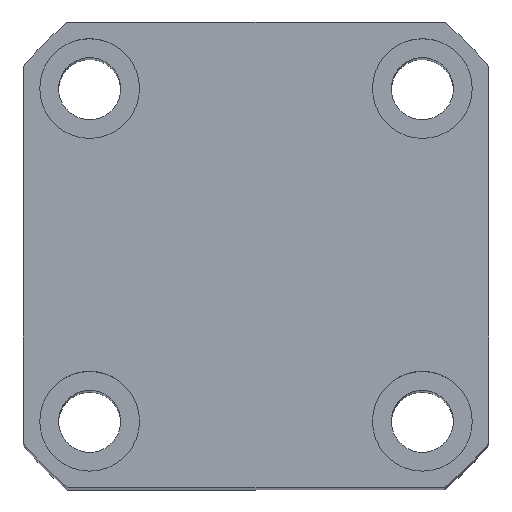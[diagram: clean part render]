
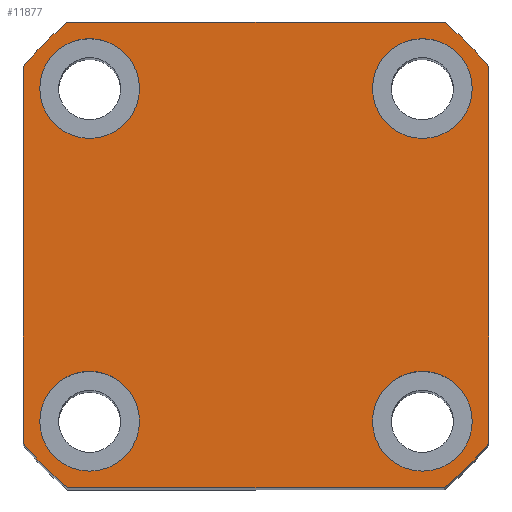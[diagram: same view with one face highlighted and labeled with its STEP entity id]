
A CAD part, top view. The second image highlights one B-rep face of the part: STEP entity #11877.
In plain terms, the highlighted planar face has unit normal (0, 0, 1).
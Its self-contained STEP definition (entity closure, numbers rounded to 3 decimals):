
#79 = CARTESIAN_POINT ( 'NONE',  ( -21., 21., 113. ) ) ;
#87 = DIRECTION ( 'NONE',  ( 0., 0., 1. ) ) ;
#669 = CARTESIAN_POINT ( 'NONE',  ( -15., -14.998, 113. ) ) ;
#742 = ORIENTED_EDGE ( 'NONE', *, *, #1354, .T. ) ;
#825 = CARTESIAN_POINT ( 'NONE',  ( -10.5, 15.002, 113. ) ) ;
#942 = CARTESIAN_POINT ( 'NONE',  ( -21., -21., 113. ) ) ;
#957 = AXIS2_PLACEMENT_3D ( 'NONE', #9805, #2702, #3389 ) ;
#1076 = ORIENTED_EDGE ( 'NONE', *, *, #4491, .T. ) ;
#1116 = CARTESIAN_POINT ( 'NONE',  ( 0., 0., 113. ) ) ;
#1141 = FACE_BOUND ( 'NONE', #7906, .T. ) ;
#1178 = CARTESIAN_POINT ( 'NONE',  ( 19.5, 15., 113. ) ) ;
#1354 = EDGE_CURVE ( 'NONE', #1812, #8994, #10324, .T. ) ;
#1579 = EDGE_CURVE ( 'NONE', #5937, #1812, #3667, .T. ) ;
#1600 = CARTESIAN_POINT ( 'NONE',  ( 15., 15., 113. ) ) ;
#1601 = CIRCLE ( 'NONE', #11013, 4.5 ) ;
#1621 = VERTEX_POINT ( 'NONE', #13833 ) ;
#1763 = DIRECTION ( 'NONE',  ( 1., 0., 0. ) ) ;
#1812 = VERTEX_POINT ( 'NONE', #1863 ) ;
#1838 = DIRECTION ( 'NONE',  ( -1., 0., 0. ) ) ;
#1863 = CARTESIAN_POINT ( 'NONE',  ( 21., 16.971, 113. ) ) ;
#1966 = CARTESIAN_POINT ( 'NONE',  ( -19.5, -14.998, 113. ) ) ;
#1986 = CIRCLE ( 'NONE', #2415, 4.5 ) ;
#2102 = EDGE_CURVE ( 'NONE', #5090, #5937, #9148, .T. ) ;
#2184 = DIRECTION ( 'NONE',  ( 1., 0., 0. ) ) ;
#2239 = CIRCLE ( 'NONE', #4811, 4.5 ) ;
#2299 = CARTESIAN_POINT ( 'NONE',  ( 0., 0., 113. ) ) ;
#2302 = CIRCLE ( 'NONE', #7056, 27. ) ;
#2379 = CARTESIAN_POINT ( 'NONE',  ( 0., 0., 113. ) ) ;
#2415 = AXIS2_PLACEMENT_3D ( 'NONE', #669, #8171, #1763 ) ;
#2423 = DIRECTION ( 'NONE',  ( 0., 0., 1. ) ) ;
#2490 = CIRCLE ( 'NONE', #8352, 4.5 ) ;
#2572 = VERTEX_POINT ( 'NONE', #9064 ) ;
#2671 = DIRECTION ( 'NONE',  ( 1., 0., 0. ) ) ;
#2693 = AXIS2_PLACEMENT_3D ( 'NONE', #8838, #2423, #9906 ) ;
#2702 = DIRECTION ( 'NONE',  ( 0., 0., 1. ) ) ;
#2915 = VERTEX_POINT ( 'NONE', #10732 ) ;
#3108 = DIRECTION ( 'NONE',  ( 1., 0., 0. ) ) ;
#3300 = EDGE_LOOP ( 'NONE', ( #3642, #3349 ) ) ;
#3323 = AXIS2_PLACEMENT_3D ( 'NONE', #10267, #7119, #13600 ) ;
#3349 = ORIENTED_EDGE ( 'NONE', *, *, #9836, .F. ) ;
#3361 = DIRECTION ( 'NONE',  ( 0., -1., 0. ) ) ;
#3368 = AXIS2_PLACEMENT_3D ( 'NONE', #10274, #3920, #11363 ) ;
#3389 = DIRECTION ( 'NONE',  ( 1., 0., 0. ) ) ;
#3412 = DIRECTION ( 'NONE',  ( 1., 0., 0. ) ) ;
#3492 = CARTESIAN_POINT ( 'NONE',  ( -16.971, 21., 113. ) ) ;
#3498 = DIRECTION ( 'NONE',  ( 1., 0., 0. ) ) ;
#3635 = VECTOR ( 'NONE', #1838, 1000. ) ;
#3642 = ORIENTED_EDGE ( 'NONE', *, *, #12263, .F. ) ;
#3667 = LINE ( 'NONE', #8363, #6505 ) ;
#3920 = DIRECTION ( 'NONE',  ( 0., 0., 1. ) ) ;
#4304 = ORIENTED_EDGE ( 'NONE', *, *, #13243, .T. ) ;
#4308 = VERTEX_POINT ( 'NONE', #9142 ) ;
#4334 = ORIENTED_EDGE ( 'NONE', *, *, #5299, .F. ) ;
#4464 = ORIENTED_EDGE ( 'NONE', *, *, #13484, .T. ) ;
#4491 = EDGE_CURVE ( 'NONE', #8994, #7193, #6479, .T. ) ;
#4637 = ORIENTED_EDGE ( 'NONE', *, *, #12546, .T. ) ;
#4811 = AXIS2_PLACEMENT_3D ( 'NONE', #6548, #87, #7596 ) ;
#4878 = EDGE_CURVE ( 'NONE', #8115, #2572, #1601, .T. ) ;
#5090 = VERTEX_POINT ( 'NONE', #10726 ) ;
#5269 = CARTESIAN_POINT ( 'NONE',  ( -15., -14.998, 113. ) ) ;
#5299 = EDGE_CURVE ( 'NONE', #13241, #13460, #10285, .T. ) ;
#5797 = CIRCLE ( 'NONE', #3368, 4.5 ) ;
#5937 = VERTEX_POINT ( 'NONE', #13632 ) ;
#6205 = DIRECTION ( 'NONE',  ( 0., 0., 1. ) ) ;
#6340 = DIRECTION ( 'NONE',  ( 1., 0., 0. ) ) ;
#6348 = LINE ( 'NONE', #79, #11665 ) ;
#6448 = DIRECTION ( 'NONE',  ( 0., 0., 1. ) ) ;
#6479 = LINE ( 'NONE', #11511, #3635 ) ;
#6505 = VECTOR ( 'NONE', #8397, 1000. ) ;
#6548 = CARTESIAN_POINT ( 'NONE',  ( 15., 15., 113. ) ) ;
#6757 = CARTESIAN_POINT ( 'NONE',  ( 16.971, 21., 113. ) ) ;
#6869 = FACE_BOUND ( 'NONE', #9953, .T. ) ;
#7056 = AXIS2_PLACEMENT_3D ( 'NONE', #1116, #8593, #2184 ) ;
#7119 = DIRECTION ( 'NONE',  ( 0., 0., 1. ) ) ;
#7193 = VERTEX_POINT ( 'NONE', #3492 ) ;
#7334 = VECTOR ( 'NONE', #3108, 1000. ) ;
#7468 = ORIENTED_EDGE ( 'NONE', *, *, #7506, .F. ) ;
#7506 = EDGE_CURVE ( 'NONE', #9191, #9727, #5797, .T. ) ;
#7596 = DIRECTION ( 'NONE',  ( 1., 0., 0. ) ) ;
#7614 = EDGE_CURVE ( 'NONE', #13460, #13241, #2239, .T. ) ;
#7652 = LINE ( 'NONE', #942, #7334 ) ;
#7669 = EDGE_CURVE ( 'NONE', #2915, #8358, #7933, .T. ) ;
#7844 = ORIENTED_EDGE ( 'NONE', *, *, #10785, .F. ) ;
#7906 = EDGE_LOOP ( 'NONE', ( #13540, #8329 ) ) ;
#7933 = CIRCLE ( 'NONE', #10496, 27. ) ;
#8115 = VERTEX_POINT ( 'NONE', #8467 ) ;
#8171 = DIRECTION ( 'NONE',  ( 0., 0., 1. ) ) ;
#8288 = ORIENTED_EDGE ( 'NONE', *, *, #2102, .T. ) ;
#8329 = ORIENTED_EDGE ( 'NONE', *, *, #4878, .F. ) ;
#8352 = AXIS2_PLACEMENT_3D ( 'NONE', #12819, #6448, #13902 ) ;
#8358 = VERTEX_POINT ( 'NONE', #13093 ) ;
#8363 = CARTESIAN_POINT ( 'NONE',  ( 21., 21., 113. ) ) ;
#8397 = DIRECTION ( 'NONE',  ( 0., 1., 0. ) ) ;
#8467 = CARTESIAN_POINT ( 'NONE',  ( 10.5, -14.998, 113. ) ) ;
#8593 = DIRECTION ( 'NONE',  ( 0., 0., 1. ) ) ;
#8604 = ORIENTED_EDGE ( 'NONE', *, *, #7669, .T. ) ;
#8697 = PLANE ( 'NONE',  #11134 ) ;
#8838 = CARTESIAN_POINT ( 'NONE',  ( 15., -14.998, 113. ) ) ;
#8967 = EDGE_LOOP ( 'NONE', ( #12343, #742, #1076, #4637, #4464, #8604, #4304, #8288 ) ) ;
#8994 = VERTEX_POINT ( 'NONE', #6757 ) ;
#9064 = CARTESIAN_POINT ( 'NONE',  ( 19.5, -14.998, 113. ) ) ;
#9069 = DIRECTION ( 'NONE',  ( 0., 0., 1. ) ) ;
#9142 = CARTESIAN_POINT ( 'NONE',  ( -21., 16.971, 113. ) ) ;
#9148 = CIRCLE ( 'NONE', #3323, 27. ) ;
#9191 = VERTEX_POINT ( 'NONE', #825 ) ;
#9339 = FACE_OUTER_BOUND ( 'NONE', #8967, .T. ) ;
#9558 = EDGE_CURVE ( 'NONE', #2572, #8115, #12210, .T. ) ;
#9668 = FACE_BOUND ( 'NONE', #13092, .T. ) ;
#9727 = VERTEX_POINT ( 'NONE', #10131 ) ;
#9777 = DIRECTION ( 'NONE',  ( 0., 0., 1. ) ) ;
#9805 = CARTESIAN_POINT ( 'NONE',  ( 0., 0., 113. ) ) ;
#9836 = EDGE_CURVE ( 'NONE', #12414, #1621, #1986, .T. ) ;
#9864 = DIRECTION ( 'NONE',  ( 0., 0., 1. ) ) ;
#9906 = DIRECTION ( 'NONE',  ( 1., 0., 0. ) ) ;
#9953 = EDGE_LOOP ( 'NONE', ( #7468, #7844 ) ) ;
#10027 = AXIS2_PLACEMENT_3D ( 'NONE', #1600, #9069, #2671 ) ;
#10131 = CARTESIAN_POINT ( 'NONE',  ( -19.5, 15.002, 113. ) ) ;
#10151 = AXIS2_PLACEMENT_3D ( 'NONE', #5269, #12707, #6340 ) ;
#10176 = CIRCLE ( 'NONE', #10151, 4.5 ) ;
#10267 = CARTESIAN_POINT ( 'NONE',  ( 0., 0., 113. ) ) ;
#10274 = CARTESIAN_POINT ( 'NONE',  ( -15., 15.002, 113. ) ) ;
#10285 = CIRCLE ( 'NONE', #10027, 4.5 ) ;
#10324 = CIRCLE ( 'NONE', #957, 27. ) ;
#10496 = AXIS2_PLACEMENT_3D ( 'NONE', #2299, #9777, #3412 ) ;
#10726 = CARTESIAN_POINT ( 'NONE',  ( 16.971, -21., 113. ) ) ;
#10732 = CARTESIAN_POINT ( 'NONE',  ( -21., -16.971, 113. ) ) ;
#10785 = EDGE_CURVE ( 'NONE', #9727, #9191, #2490, .T. ) ;
#11013 = AXIS2_PLACEMENT_3D ( 'NONE', #12568, #6205, #13656 ) ;
#11134 = AXIS2_PLACEMENT_3D ( 'NONE', #2379, #9864, #3498 ) ;
#11363 = DIRECTION ( 'NONE',  ( 1., 0., 0. ) ) ;
#11511 = CARTESIAN_POINT ( 'NONE',  ( -21., 21., 113. ) ) ;
#11665 = VECTOR ( 'NONE', #3361, 1000. ) ;
#11811 = ORIENTED_EDGE ( 'NONE', *, *, #7614, .F. ) ;
#11877 = ADVANCED_FACE ( 'NONE', ( #6869, #12199, #1141, #9668, #9339 ), #8697, .T. ) ;
#12199 = FACE_BOUND ( 'NONE', #3300, .T. ) ;
#12210 = CIRCLE ( 'NONE', #2693, 4.5 ) ;
#12263 = EDGE_CURVE ( 'NONE', #1621, #12414, #10176, .T. ) ;
#12343 = ORIENTED_EDGE ( 'NONE', *, *, #1579, .T. ) ;
#12414 = VERTEX_POINT ( 'NONE', #1966 ) ;
#12546 = EDGE_CURVE ( 'NONE', #7193, #4308, #2302, .T. ) ;
#12568 = CARTESIAN_POINT ( 'NONE',  ( 15., -14.998, 113. ) ) ;
#12707 = DIRECTION ( 'NONE',  ( 0., 0., 1. ) ) ;
#12819 = CARTESIAN_POINT ( 'NONE',  ( -15., 15.002, 113. ) ) ;
#13092 = EDGE_LOOP ( 'NONE', ( #11811, #4334 ) ) ;
#13093 = CARTESIAN_POINT ( 'NONE',  ( -16.971, -21., 113. ) ) ;
#13241 = VERTEX_POINT ( 'NONE', #13727 ) ;
#13243 = EDGE_CURVE ( 'NONE', #8358, #5090, #7652, .T. ) ;
#13460 = VERTEX_POINT ( 'NONE', #1178 ) ;
#13484 = EDGE_CURVE ( 'NONE', #4308, #2915, #6348, .T. ) ;
#13540 = ORIENTED_EDGE ( 'NONE', *, *, #9558, .F. ) ;
#13600 = DIRECTION ( 'NONE',  ( 1., 0., 0. ) ) ;
#13632 = CARTESIAN_POINT ( 'NONE',  ( 21., -16.971, 113. ) ) ;
#13656 = DIRECTION ( 'NONE',  ( 1., 0., 0. ) ) ;
#13727 = CARTESIAN_POINT ( 'NONE',  ( 10.5, 15., 113. ) ) ;
#13833 = CARTESIAN_POINT ( 'NONE',  ( -10.5, -14.998, 113. ) ) ;
#13902 = DIRECTION ( 'NONE',  ( 1., 0., 0. ) ) ;
